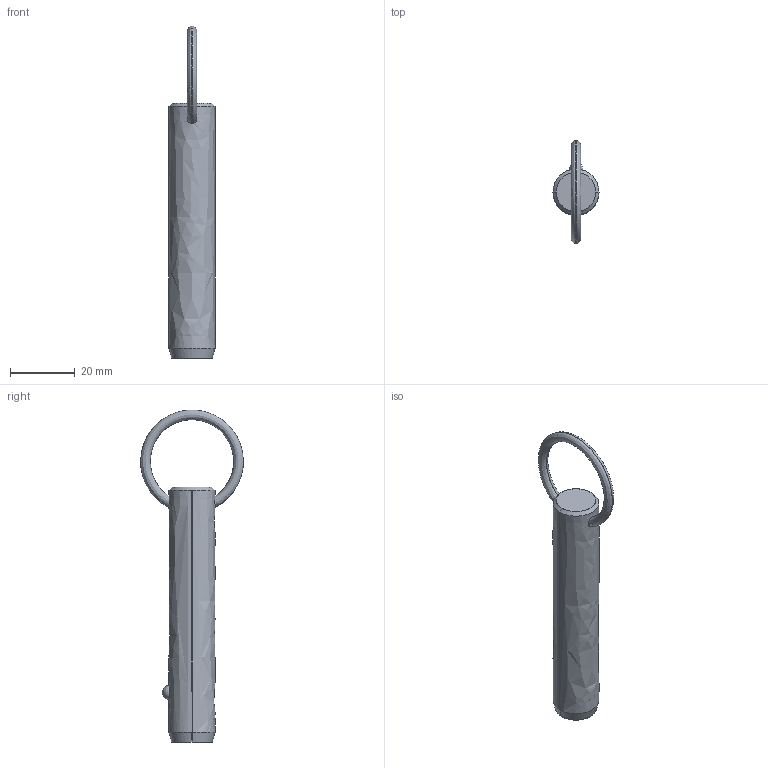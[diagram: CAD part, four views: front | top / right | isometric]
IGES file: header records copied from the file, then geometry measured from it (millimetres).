
Start section: SolidWorks IGES file using analytic representation for surfaces
Global section: file name: C:\Users\liam_\OneDrive\Documents\WORK\Work for WixRoyd\Job Files\J-00019 - Matt Davis CAD Checking\04. CAD Drawings\automotion20190605\P1250.2_v2\P1250.2_v2_20190729_IGES\P1250.056-210.igs; native system: SolidWorks 2017; preprocessor: SolidWorks 2017; author: liam_; date: 190729.231733; units: millimetre
Bounding box: 14.2 x 31.68 x 102.4 mm (x, y, z)
Surface area: 4472.3 mm2 (no closed solid volume)
Topology: 0 solids, 0 shells, 12 faces, 285 edges, 283 vertices
Faces by surface type: revolution 8, bspline 4
